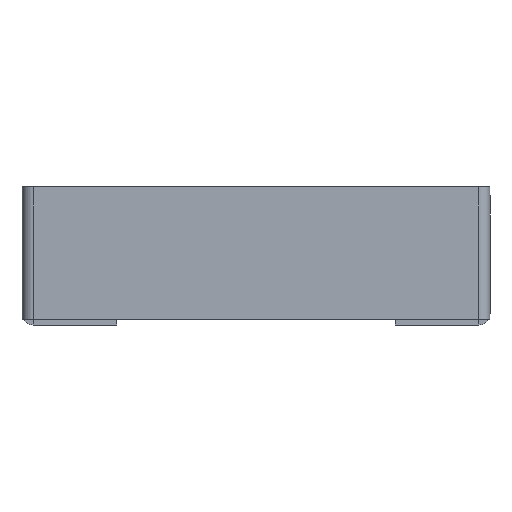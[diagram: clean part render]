
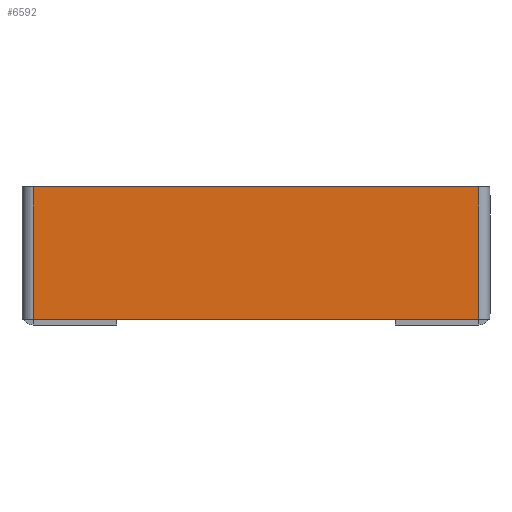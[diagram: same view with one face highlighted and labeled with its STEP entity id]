
A CAD part, front view. The second image highlights one B-rep face of the part: STEP entity #6592.
In plain terms, the highlighted planar face has unit normal (0, -1, 0).
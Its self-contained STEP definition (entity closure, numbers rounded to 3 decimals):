
#130 = EDGE_CURVE ( 'NONE', #868, #652, #5903, .T. ) ;
#271 = CARTESIAN_POINT ( 'NONE',  ( -100., -2.5, 0. ) ) ;
#334 = CARTESIAN_POINT ( 'NONE',  ( 97.5, -2.5, -58. ) ) ;
#379 = AXIS2_PLACEMENT_3D ( 'NONE', #4931, #1531, #6066 ) ;
#535 = VERTEX_POINT ( 'NONE', #3601 ) ;
#652 = VERTEX_POINT ( 'NONE', #6814 ) ;
#683 = CARTESIAN_POINT ( 'NONE',  ( -100., -2.5, -58. ) ) ;
#785 = DIRECTION ( 'NONE',  ( 0., 0., -1. ) ) ;
#868 = VERTEX_POINT ( 'NONE', #334 ) ;
#971 = DIRECTION ( 'NONE',  ( 1., 0., 0. ) ) ;
#1283 = VERTEX_POINT ( 'NONE', #1845 ) ;
#1531 = DIRECTION ( 'NONE',  ( 0., 1., 0. ) ) ;
#1805 = DIRECTION ( 'NONE',  ( -1., 0., 0. ) ) ;
#1845 = CARTESIAN_POINT ( 'NONE',  ( -97.5, -2.5, 0. ) ) ;
#1877 = EDGE_CURVE ( 'NONE', #868, #535, #2254, .T. ) ;
#1962 = FACE_OUTER_BOUND ( 'NONE', #7263, .T. ) ;
#2254 = LINE ( 'NONE', #683, #5350 ) ;
#2380 = ORIENTED_EDGE ( 'NONE', *, *, #6443, .T. ) ;
#3185 = DIRECTION ( 'NONE',  ( 0., 0., 1. ) ) ;
#3601 = CARTESIAN_POINT ( 'NONE',  ( -97.5, -2.5, -58. ) ) ;
#3750 = LINE ( 'NONE', #271, #4629 ) ;
#4188 = CARTESIAN_POINT ( 'NONE',  ( -97.5, -2.5, 0. ) ) ;
#4199 = ORIENTED_EDGE ( 'NONE', *, *, #6542, .F. ) ;
#4629 = VECTOR ( 'NONE', #971, 1000. ) ;
#4931 = CARTESIAN_POINT ( 'NONE',  ( 0., -2.5, 0. ) ) ;
#5190 = VECTOR ( 'NONE', #3185, 1000. ) ;
#5342 = PLANE ( 'NONE',  #379 ) ;
#5350 = VECTOR ( 'NONE', #1805, 1000. ) ;
#5903 = LINE ( 'NONE', #5928, #5190 ) ;
#5928 = CARTESIAN_POINT ( 'NONE',  ( 97.5, -2.5, -58. ) ) ;
#5990 = ORIENTED_EDGE ( 'NONE', *, *, #130, .T. ) ;
#6066 = DIRECTION ( 'NONE',  ( 0., 0., 1. ) ) ;
#6443 = EDGE_CURVE ( 'NONE', #1283, #535, #6490, .T. ) ;
#6490 = LINE ( 'NONE', #4188, #7277 ) ;
#6542 = EDGE_CURVE ( 'NONE', #1283, #652, #3750, .T. ) ;
#6592 = ADVANCED_FACE ( 'NONE', ( #1962 ), #5342, .F. ) ;
#6814 = CARTESIAN_POINT ( 'NONE',  ( 97.5, -2.5, 0. ) ) ;
#7127 = ORIENTED_EDGE ( 'NONE', *, *, #1877, .F. ) ;
#7263 = EDGE_LOOP ( 'NONE', ( #2380, #7127, #5990, #4199 ) ) ;
#7277 = VECTOR ( 'NONE', #785, 1000. ) ;
